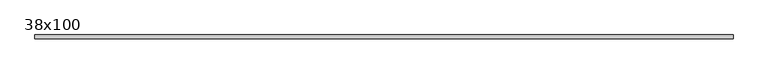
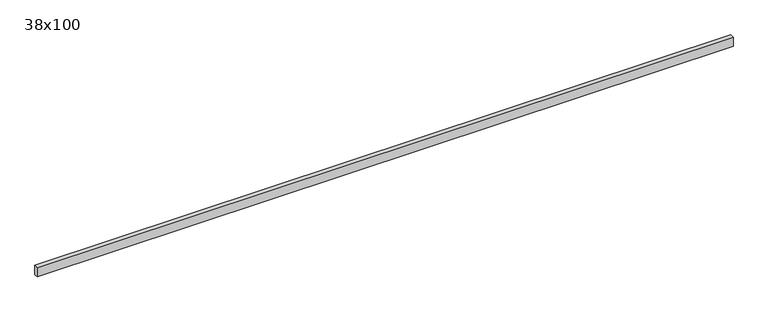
"""IFC4 building model written with IfcOpenShell, lengths in millimetres: beam geometry, Poutre - Bois de construction de dimensions courantes : 38x100."""

from ifc_helpers import new_model, si_unit, frame, origin, place, context, project, spatial, polyline, outline, extrude, source, transform, mapped, element, save


def beam_38x100_9658b566(model_context):
    return source(origin(), model_context, "Body", "SweptSolid", [
        extrude(outline(polyline([(3536.0, 19.05), (3536.0, -19.05), (-3477.0, -19.05), (-3477.0, 19.05), (3536.0, 19.05)])), frame((0.0, 0.0, -50.0), z_axis=(0.0, 0.0, 1.0), x_axis=(1.0, 0.0, 0.0)), (0.0, 0.0, 1.0), 100.0),
    ])


if __name__ == "__main__":
    model = new_model("IFC4")
    model_context = context("Model", 3, world=origin())
    ifc_project = project(units=[si_unit("LENGTHUNIT", "METRE", prefix="MILLI")], contexts=[model_context])
    site = spatial("IfcSite", under=ifc_project)
    building = spatial("IfcBuilding", under=site)
    placement = place(None, origin())
    beam_38x100_shape = beam_38x100_9658b566(model_context)
    element("IfcBeam", 1, ObjectType="Poutre - Bois de construction de dimensions courantes : 38x100", at=placement, inside=building, context=model_context, shape_type="MappedRepresentation", body=[
        mapped(beam_38x100_shape, transform((0.0, 0.0, 0.0), x_axis=(1.0, 0.0, 0.0), y_axis=(0.0, 1.0, 0.0), z_axis=(0.0, 0.0, 1.0))),
    ])
    save(model, "model.ifc")
